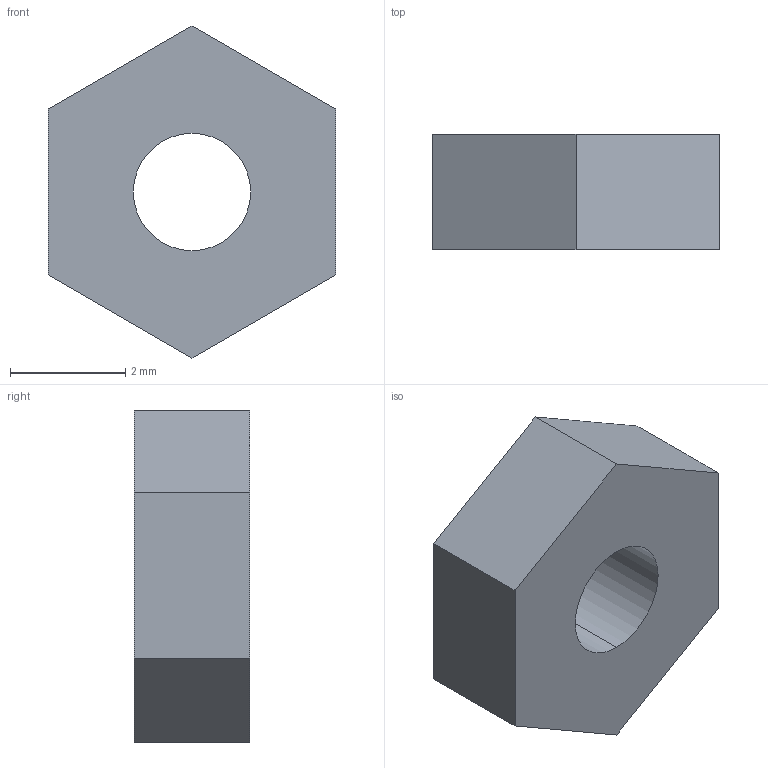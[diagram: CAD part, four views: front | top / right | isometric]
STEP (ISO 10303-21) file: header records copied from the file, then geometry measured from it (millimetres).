
FILE_DESCRIPTION(('Open CASCADE Model'),'2;1');
FILE_NAME('pivot-m2p5-hex-nut.step','2026-11-14T14:32:01',('Author'),( 'Open CASCADE'),'Open CASCADE STEP processor 8.0','Open CASCADE 8.0' ,'Unknown');
FILE_SCHEMA(('AP242_MANAGED_MODEL_BASED_3D_ENGINEERING_MIM_LF {1 0 10303 442 1 1 4 }' ));
Length unit declared in the file: millimetre
Products named in the file (1): Pivot M2p5 Hex Nut
Bounding box: 5 x 2 x 5.77 mm (x, y, z)
Volume: 36.8 mm3; surface area: 84.2 mm2
Topology: 1 solids, 1 shells, 10 faces, 24 edges, 16 vertices
Faces by surface type: plane 8, cylinder 2
Entity records: 624 total; most frequent: CARTESIAN_POINT 111, DIRECTION 96, LINE 64, VECTOR 64, ORIENTED_EDGE 48, PCURVE 48, DEFINITIONAL_REPRESENTATION 48, EDGE_CURVE 24
